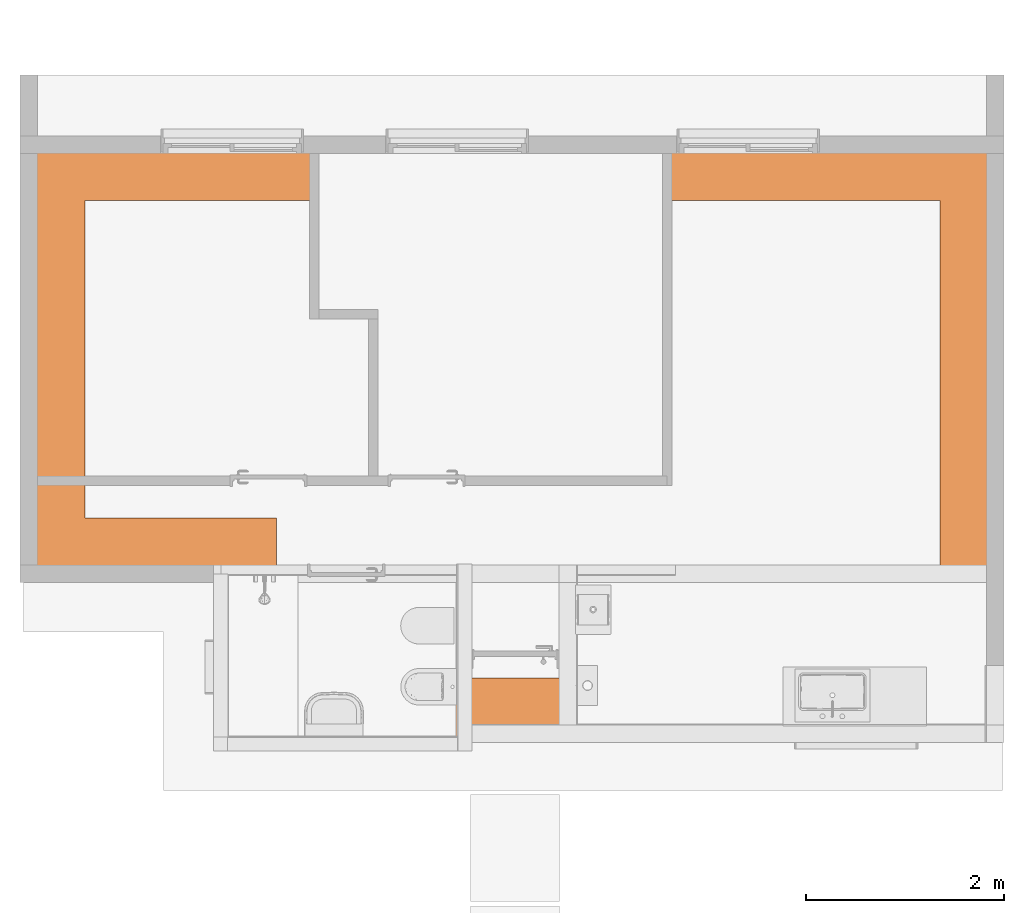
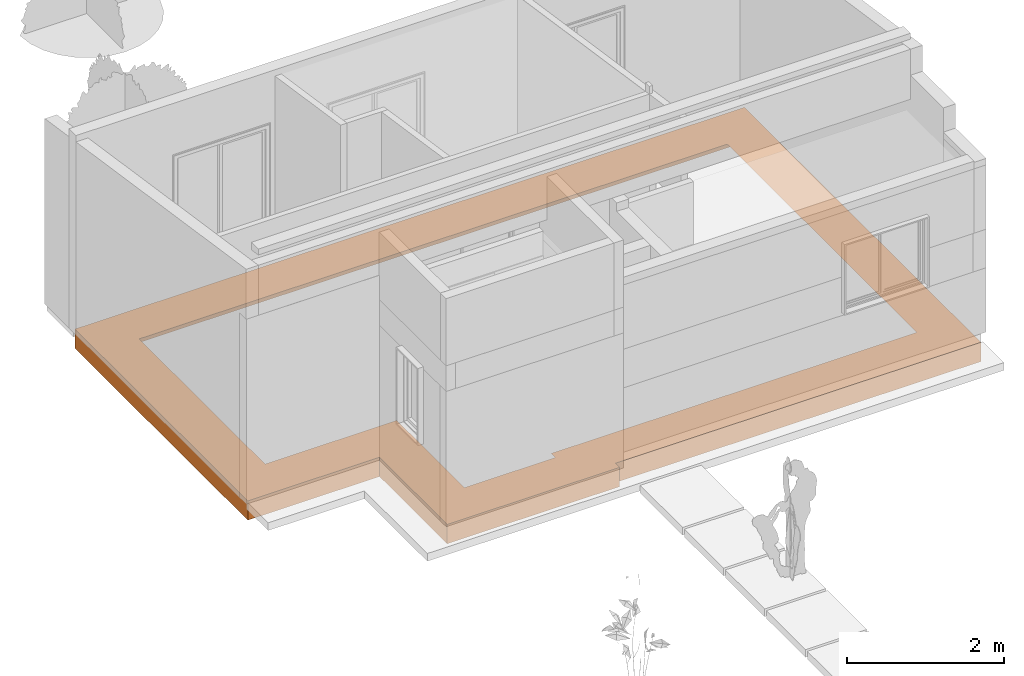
# One storey, part 10 of 10: 1 proxy.
"""IFC2X3 building model written with IfcOpenShell, lengths in metres."""

from ifc_helpers import new_model, entity, si_unit, converted_unit, derived_unit, direction, frame, origin, place, context, subcontext, project, spatial, faceted_brep, element, save


model = new_model("IFC2X3")

# Units and contexts
model_context = context("Model", 3, precision=1e-05, world=origin(), true_north=direction((6.12303176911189e-17, 1.0)))
body_context = subcontext(model_context, "Body", "Model", "MODEL_VIEW")
ifc_project = project(units=[si_unit("LENGTHUNIT", "METRE"), si_unit("AREAUNIT", "SQUARE_METRE"), si_unit("VOLUMEUNIT", "CUBIC_METRE"), converted_unit("PLANEANGLEUNIT", "DEGREE", entity("IfcRatioMeasure", 0.0174532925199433), si_unit("PLANEANGLEUNIT", "RADIAN"), dimensions=[0, 0, 0, 0, 0, 0, 0]), si_unit("MASSUNIT", "GRAM", prefix="KILO"), derived_unit("MASSDENSITYUNIT", [(si_unit("MASSUNIT", "GRAM", prefix="KILO"), 1), (si_unit("LENGTHUNIT", "METRE"), -3)]), si_unit("TIMEUNIT", "SECOND"), si_unit("FREQUENCYUNIT", "HERTZ"), si_unit("THERMODYNAMICTEMPERATUREUNIT", "DEGREE_CELSIUS"), derived_unit("THERMALTRANSMITTANCEUNIT", [(si_unit("MASSUNIT", "GRAM", prefix="KILO"), 1), (si_unit("THERMODYNAMICTEMPERATUREUNIT", "KELVIN"), -1), (si_unit("TIMEUNIT", "SECOND"), -3)]), derived_unit("VOLUMETRICFLOWRATEUNIT", [(si_unit("LENGTHUNIT", "METRE"), 3), (si_unit("TIMEUNIT", "SECOND"), -1)]), si_unit("ELECTRICCURRENTUNIT", "AMPERE"), si_unit("ELECTRICVOLTAGEUNIT", "VOLT"), si_unit("POWERUNIT", "WATT"), si_unit("FORCEUNIT", "NEWTON", prefix="KILO"), si_unit("ILLUMINANCEUNIT", "LUX"), si_unit("LUMINOUSFLUXUNIT", "LUMEN"), si_unit("LUMINOUSINTENSITYUNIT", "CANDELA"), derived_unit("USERDEFINED", [(si_unit("MASSUNIT", "GRAM", prefix="KILO"), -1), (si_unit("LENGTHUNIT", "METRE"), -2), (si_unit("TIMEUNIT", "SECOND"), 3), (si_unit("LUMINOUSFLUXUNIT", "LUMEN"), 1)]), derived_unit("LINEARVELOCITYUNIT", [(si_unit("LENGTHUNIT", "METRE"), 1), (si_unit("TIMEUNIT", "SECOND"), -1)]), si_unit("PRESSUREUNIT", "PASCAL"), derived_unit("USERDEFINED", [(si_unit("LENGTHUNIT", "METRE"), -2), (si_unit("MASSUNIT", "GRAM", prefix="KILO"), 1), (si_unit("TIMEUNIT", "SECOND"), -2)])], contexts=[model_context])

# Site, building, storey
site_placement = place(None, origin())
site = spatial("IfcSite", under=ifc_project, at=site_placement, Name="Surface", CompositionType="ELEMENT")
building_placement = place(site_placement, origin())
building = spatial("IfcBuilding", under=site, at=building_placement, CompositionType="ELEMENT")
storey_placement = place(building_placement, origin())
storey = spatial("IfcBuildingStorey", under=building, at=storey_placement, Name="Nivel 0.0", CompositionType="ELEMENT", Elevation=0.0)

# Proxy
proxy_placement = place(storey_placement, frame((-8.95308547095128, -3.48078532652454, -0.475816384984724)))
element("IfcBuildingElementProxy", 1, at=proxy_placement, inside=storey, Name="Slab Edge:Slab Edge", ObjectType="Slab Edge:Slab Edge", context=body_context, shape_type="Brep", body=[
    faceted_brep([(0.0, 6.12999999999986, 0.300000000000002), (0.0, 6.12999999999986, 0.0), (0.0, 1.72323662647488, 0.0), (0.0, 1.72323662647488, 0.300000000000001), (0.6, 5.52999999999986, 0.300000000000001), (0.599999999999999, 2.32323662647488, 0.300000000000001), (0.300000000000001, 5.82999999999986, 0.0), (0.3, 2.02323662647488, 0.0), (9.84800000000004, 6.12999999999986, 0.300000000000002), (9.84800000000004, 6.12999999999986, 0.0), (9.24800000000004, 5.52999999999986, 0.300000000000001), (9.54800000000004, 5.82999999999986, 0.0), (9.84800000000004, 0.104999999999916, 0.300000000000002), (9.84800000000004, 0.104999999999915, 0.0), (9.24800000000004, 0.704999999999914, 0.300000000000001), (9.54800000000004, 0.404999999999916, 0.0), (4.4720717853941, 0.104999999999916, 0.300000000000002), (4.4720717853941, 0.104999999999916, 0.0), (3.8720717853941, 0.704999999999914, 0.300000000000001), (4.1720717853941, 0.404999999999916, 0.0), (4.4720717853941, 0.0, 0.300000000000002), (4.4720717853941, 0.0, 0.0), (3.8720717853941, 0.599999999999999, 0.300000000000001), (4.1720717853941, 0.300000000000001, 0.0), (1.93707178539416, 0.0, 0.300000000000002), (1.93707178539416, 0.0, 0.0), (2.53707178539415, 0.599999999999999, 0.300000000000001), (2.23707178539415, 0.300000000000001, 0.0), (1.93707178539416, 1.72323662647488, 0.300000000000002), (1.93707178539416, 1.72323662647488, 0.0), (2.53707178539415, 2.32323662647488, 0.300000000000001), (2.23707178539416, 2.02323662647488, 0.0)], [[[0, 1, 2, 3]], [[4, 0, 3, 5]], [[6, 4, 5, 7]], [[1, 6, 7, 2]], [[8, 9, 1, 0]], [[10, 8, 0, 4]], [[11, 10, 4, 6]], [[9, 11, 6, 1]], [[12, 13, 9, 8]], [[14, 12, 8, 10]], [[15, 14, 10, 11]], [[13, 15, 11, 9]], [[16, 17, 13, 12]], [[18, 16, 12, 14]], [[19, 18, 14, 15]], [[17, 19, 15, 13]], [[20, 21, 17, 16]], [[22, 20, 16, 18]], [[23, 22, 18, 19]], [[21, 23, 19, 17]], [[24, 25, 21, 20]], [[26, 24, 20, 22]], [[27, 26, 22, 23]], [[25, 27, 23, 21]], [[28, 29, 25, 24]], [[30, 28, 24, 26]], [[31, 30, 26, 27]], [[29, 31, 27, 25]], [[3, 2, 29, 28]], [[5, 3, 28, 30]], [[7, 5, 30, 31]], [[2, 7, 31, 29]]]),
])

save(model, "model.ifc")
